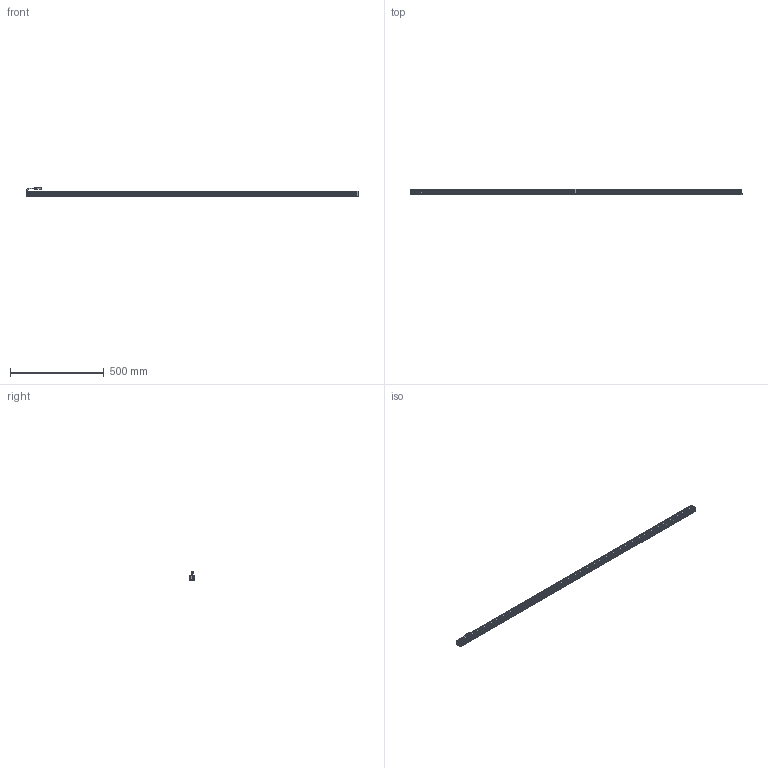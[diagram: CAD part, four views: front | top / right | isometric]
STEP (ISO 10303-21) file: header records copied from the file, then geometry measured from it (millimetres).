
FILE_DESCRIPTION (( 'STEP AP203' ), '1' );
FILE_NAME ('CK-BL176728.STEP', '2026-01-03T01:50:16', ( '' ), ( '' ), 'SwSTEP 2.0', 'SolidWorks 2022', '' );
FILE_SCHEMA (( 'CONFIG_CONTROL_DESIGN' ));
Length unit declared in the file: millimetre
Products named in the file (6): 光源线-01; 十字沉头螺丝 M2x10; CK-BL176728-002A; CK-BL176728-003A; CK-BL176728-001A; CK-BL176728
Assembly tree (11 placements, depth 2):
  CK-BL176728
    CK-BL176728-001A
    CK-BL176728-002A  x2
    CK-BL176728-003A
    光源线-01
    十字沉头螺丝 M2x10  x6
Bounding box: 1767 x 27 x 47.34 mm (x, y, z)
Volume: 560199.4 mm3; surface area: 489762.5 mm2
Topology: 13 solids, 13 shells, 575 faces, 1494 edges, 950 vertices
Faces by surface type: plane 337, cylinder 172, cone 46, bspline 20
Entity records: 13997 total; most frequent: CARTESIAN_POINT 2782, ORIENTED_EDGE 2202, DIRECTION 2163, EDGE_CURVE 1101, VECTOR 781, LINE 781, VERTEX_POINT 714, AXIS2_PLACEMENT_3D 691
